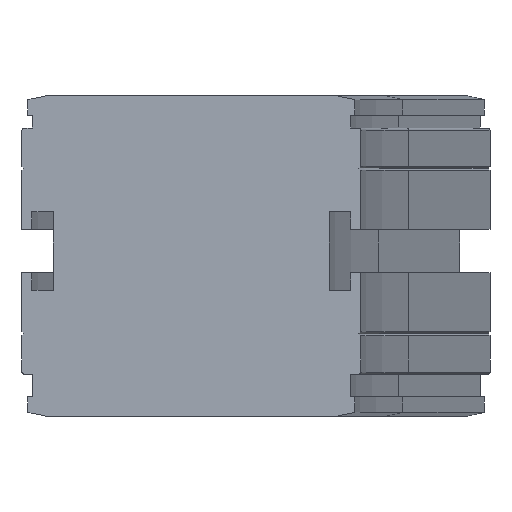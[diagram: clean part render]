
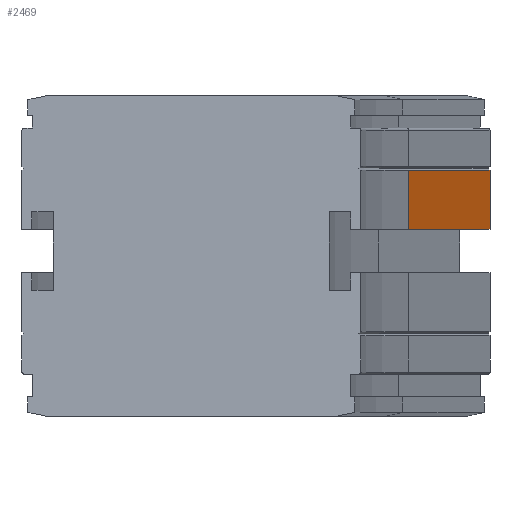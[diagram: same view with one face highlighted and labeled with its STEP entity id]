
A CAD part, left-side view. The second image highlights one B-rep face of the part: STEP entity #2469.
In plain terms, the highlighted planar face has unit normal (-0.259, -0.966, 0).
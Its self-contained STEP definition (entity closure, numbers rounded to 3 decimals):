
#2430=CARTESIAN_POINT('',(172.398,-55.164,-34.));
#2431=DIRECTION('',(-0.259,-0.966,0.));
#2432=DIRECTION('',(0.0,0.0,-1.0));
#2433=AXIS2_PLACEMENT_3D('',#2430,#2431,#2432);
#2434=PLANE('',#2433);
#2435=CARTESIAN_POINT('',(249.672,-75.87,-34.));
#2436=VERTEX_POINT('',#2435);
#2437=CARTESIAN_POINT('',(249.672,-75.87,-19.));
#2438=VERTEX_POINT('',#2437);
#2439=CARTESIAN_POINT('',(249.672,-75.87,-34.));
#2440=DIRECTION('',(0.0,0.0,1.0));
#2441=VECTOR('',#2440,15.);
#2442=LINE('',#2439,#2441);
#2443=EDGE_CURVE('',#2436,#2438,#2442,.T.);
#2444=ORIENTED_EDGE('',*,*,#2443,.T.);
#2445=CARTESIAN_POINT('',(172.398,-55.164,-19.));
#2446=VERTEX_POINT('',#2445);
#2447=CARTESIAN_POINT('',(172.398,-55.164,-19.));
#2448=DIRECTION('',(0.966,-0.259,0.0));
#2449=VECTOR('',#2448,80.);
#2450=LINE('',#2447,#2449);
#2451=EDGE_CURVE('',#2446,#2438,#2450,.T.);
#2452=ORIENTED_EDGE('',*,*,#2451,.F.);
#2453=CARTESIAN_POINT('',(172.398,-55.164,-34.));
#2454=VERTEX_POINT('',#2453);
#2455=CARTESIAN_POINT('',(172.398,-55.164,-34.));
#2456=DIRECTION('',(0.0,0.0,1.0));
#2457=VECTOR('',#2456,15.);
#2458=LINE('',#2455,#2457);
#2459=EDGE_CURVE('',#2454,#2446,#2458,.T.);
#2460=ORIENTED_EDGE('',*,*,#2459,.F.);
#2461=CARTESIAN_POINT('',(172.398,-55.164,-34.));
#2462=DIRECTION('',(0.966,-0.259,0.0));
#2463=VECTOR('',#2462,80.);
#2464=LINE('',#2461,#2463);
#2465=EDGE_CURVE('',#2454,#2436,#2464,.T.);
#2466=ORIENTED_EDGE('',*,*,#2465,.T.);
#2467=EDGE_LOOP('',(#2444,#2452,#2460,#2466));
#2468=FACE_OUTER_BOUND('',#2467,.T.);
#2469=ADVANCED_FACE('',(#2468),#2434,.T.);
